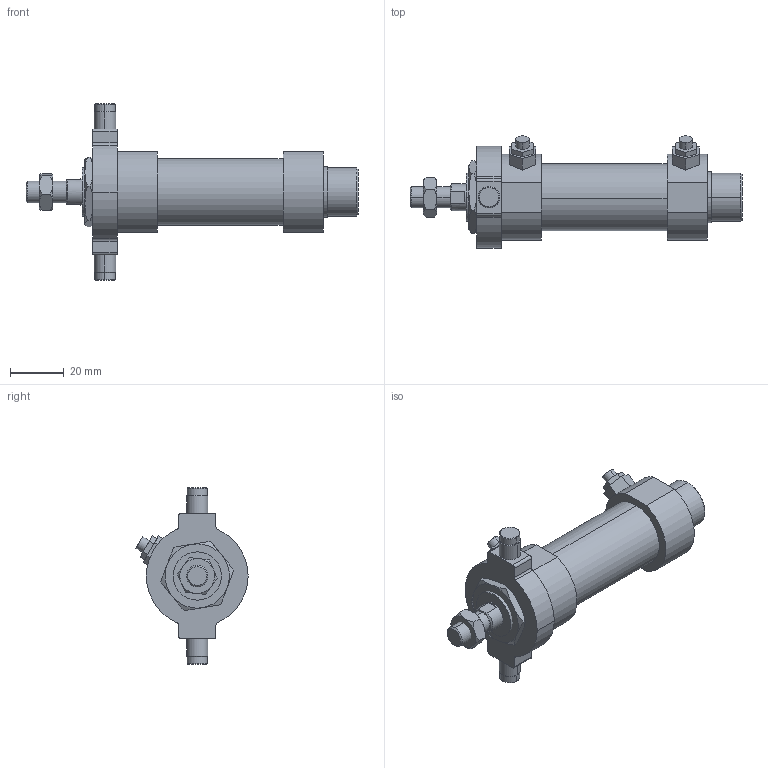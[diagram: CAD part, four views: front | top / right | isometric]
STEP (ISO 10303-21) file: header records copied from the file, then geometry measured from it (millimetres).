
FILE_DESCRIPTION (( 'STEP AP203' ), '1' );
FILE_NAME ('JG2-20-15-T.STEP', '2016-04-19T00:34:59', ( '' ), ( '' ), 'SwSTEP 2.0', 'SolidWorks 2014', '' );
FILE_SCHEMA (( 'CONFIG_CONTROL_DESIGN' ));
Length unit declared in the file: millimetre
Products named in the file (7): JG2-20-15-T; 20-15; M8x1.25-5mm; JG2-20B; J#2-20-T; JG2-20A; M18x1.5-3mm
Assembly tree (6 placements, depth 2):
  JG2-20-15-T
    JG2-20B
    20-15
    JG2-20A
    M8x1.25-5mm
    M18x1.5-3mm
    J#2-20-T
Bounding box: 124 x 41.9 x 66 mm (x, y, z)
Volume: 65224 mm3; surface area: 19715.1 mm2
Topology: 6 solids, 6 shells, 175 faces, 395 edges, 246 vertices
Faces by surface type: plane 78, cylinder 51, torus 24, cone 22
Entity records: 6010 total; most frequent: CARTESIAN_POINT 1373, DIRECTION 843, ORIENTED_EDGE 782, EDGE_CURVE 391, AXIS2_PLACEMENT_3D 332, VERTEX_POINT 246, EDGE_LOOP 199, LINE 179
